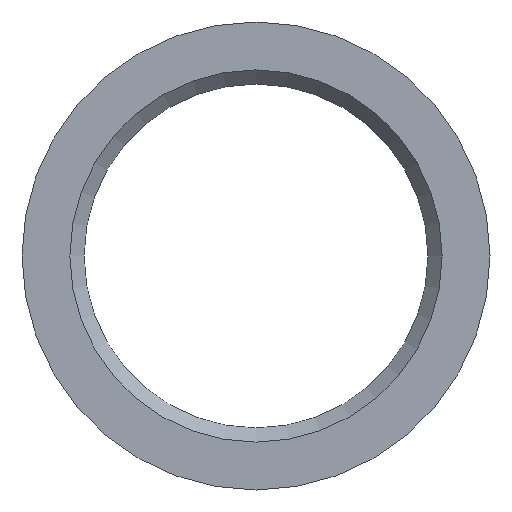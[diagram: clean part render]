
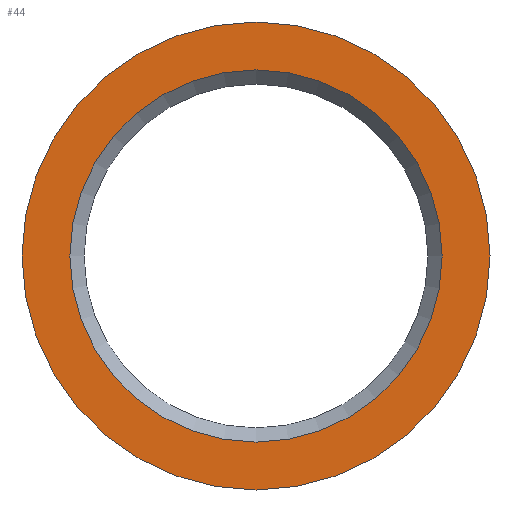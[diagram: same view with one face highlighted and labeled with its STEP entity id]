
A CAD part, front view. The second image highlights one B-rep face of the part: STEP entity #44.
In plain terms, the highlighted planar face has unit normal (0, -1, 0).
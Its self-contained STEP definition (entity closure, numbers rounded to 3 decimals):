
#44=ADVANCED_FACE('',(#63,#65),#67,.F.);
#63=FACE_BOUND('',#64,.T.);
#64=EDGE_LOOP('',(#210));
#65=FACE_BOUND('',#66,.T.);
#66=EDGE_LOOP('',(#211));
#67=PLANE('',#68);
#68=AXIS2_PLACEMENT_3D('',#69,#70,#71);
#69=CARTESIAN_POINT('',(0.,0.,0.));
#70=DIRECTION('',(0.,1.,0.));
#71=DIRECTION('',(-1.,0.,0.));
#210=ORIENTED_EDGE('',*,*,#294,.F.);
#211=ORIENTED_EDGE('',*,*,#295,.T.);
#294=EDGE_CURVE('',#336,#336,#337,.T.);
#295=EDGE_CURVE('',#338,#338,#339,.T.);
#336=VERTEX_POINT('',#408);
#337=CIRCLE('',#409,26.5);
#338=VERTEX_POINT('',#413);
#339=CIRCLE('',#414,21.076);
#408=CARTESIAN_POINT('',(-26.5,0.,0.));
#409=AXIS2_PLACEMENT_3D('',#410,#411,#412);
#410=CARTESIAN_POINT('',(0.,0.,0.));
#411=DIRECTION('',(0.,1.,0.));
#412=DIRECTION('',(-1.,0.,0.));
#413=CARTESIAN_POINT('',(-21.076,0.,0.));
#414=AXIS2_PLACEMENT_3D('',#415,#416,#417);
#415=CARTESIAN_POINT('',(0.,0.,0.));
#416=DIRECTION('',(0.,1.,0.));
#417=DIRECTION('',(-1.,0.,0.));
